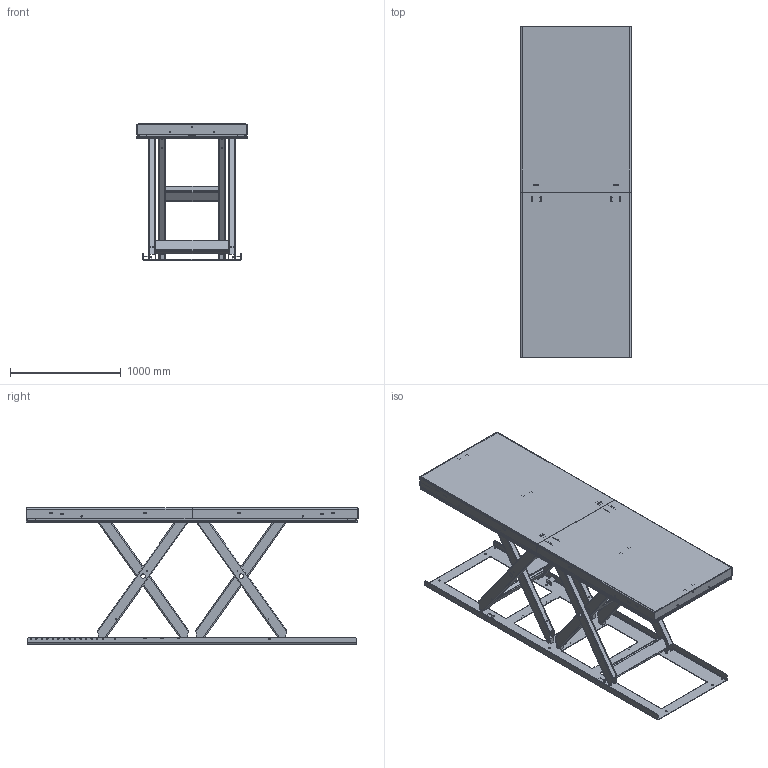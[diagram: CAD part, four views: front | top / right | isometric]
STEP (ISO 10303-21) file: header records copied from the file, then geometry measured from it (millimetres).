
FILE_DESCRIPTION(/* description */ ('TBH 4000 (3000x1000)'),/* implementation_level */ '2;1');
FILE_NAME(/* name */ 'C:\Autodesk_VaultWork\Ritningar\STP\60326_Elevated.stp',/* time_stamp */ '2016-12-19T11:39:38+01:00',/* author */ ('JOHSO'),/* organization */ (''),/* preprocessor_version */ 'ST-DEVELOPER v16.5',/* originating_system */ 'Autodesk Inventor 2017',/* authorisation */ '');
FILE_SCHEMA (('AUTOMOTIVE_DESIGN { 1 0 10303 214 3 1 1 }'));
Products named in the file (31): 60326.tmp; 603257; 603256; 44870; 603258; 603259; 603260; 45259; 608321; 603235; 80131; 45387; 36617; 36617_1; 36616; 36613-2; 82148-1310; 82159 - 660; 36615; 36613-1; 82148-1310_1; 82732 - 478; 31766-3000x1000; 42289-953; 42289-2973; 42330; 42331; 33990; 43476; 43481; 80473
Assembly tree (82 placements, depth 5):
  60326.tmp
    603257
      603256
      45259  x4
      44870  x4
    603258
      603259
      603260
      45259  x2
      608321  x2
      45387  x12
      603235  x4
      80131  x8
    36617
      36616
        36613-2  x2
          82148-1310
        82159 - 660
      36615
        36613-1  x2
          82148-1310_1
        82732 - 478
    36617_1
      36616
        36613-2  x2
          82148-1310
        82159 - 660
      36615
        36613-1  x2
          82148-1310_1
        82732 - 478
    31766-3000x1000
      42289-953  x2
      42289-2973  x2
      42330  x4
      42331  x4
      33990  x2
      43476  x4
      43481  x4
      80473  x4
Bounding box: 1000 x 3002.5 x 1230 mm (x, y, z)
Volume: 50013565 mm3; surface area: 21189237.1 mm2
Topology: 77 solids, 85 shells, 5230 faces, 14378 edges, 9392 vertices
Faces by surface type: plane 2674, cylinder 1832, bspline 486, cone 126, torus 64, sphere 48
Full cylindrical faces by diameter (mm): 0.474 x2, 1 x4, 3 x4, 3.141 x4, 3.2 x4, 4 x16, 4.3 x4, 4.9 x2, 5 x4, 5.2 x6, 5.3 x2, 6.647 x4, 6.8 x16, 7.4 x16, 7.6 x4, 8 x16, 8.5 x4, 10 x6, 10.5 x20, 11 x2, 11.63 x8, 12 x4, 12.5 x6, 13 x4, 13.5 x14, 14.2 x32, 16 x8, 28.1 x6, 40.2 x8, 60 x8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
Entity records: 91490 total; most frequent: CARTESIAN_POINT 22759, ORIENTED_EDGE 14052, DIRECTION 13469, EDGE_CURVE 7020, VERTEX_POINT 4705, AXIS2_PLACEMENT_3D 4569, LINE 4331, VECTOR 4331
